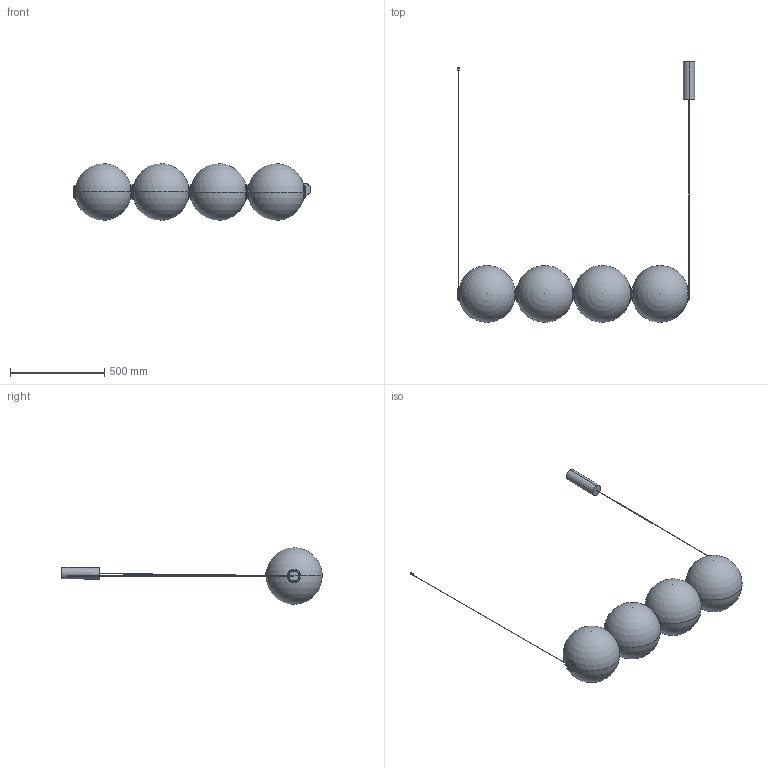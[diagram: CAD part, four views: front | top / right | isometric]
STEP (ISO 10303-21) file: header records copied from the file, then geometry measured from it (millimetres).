
FILE_DESCRIPTION (( 'STEP AP214' ), '1' );
FILE_NAME ('LUDO_C1368_4.STEP', '2026-08-27T11:18:22', ( '' ), ( '' ), 'SwSTEP 2.0', 'SolidWorks 2023', '' );
FILE_SCHEMA (( 'AUTOMOTIVE_DESIGN' ));
Length unit declared in the file: millimetre
Products named in the file (5): bola ulon; tubo ison; floron colgante 4; union; LUDO_C1368_4
Assembly tree (9 placements, depth 2):
  LUDO_C1368_4
    tubo ison
    bola ulon  x4
    union  x3
    floron colgante 4
Bounding box: 1258.09 x 1379.42 x 300 mm (x, y, z)
Volume: 60611103 mm3; surface area: 1581200.6 mm2
Topology: 20 solids, 20 shells, 300 faces, 778 edges, 510 vertices
Faces by surface type: cylinder 151, plane 79, sphere 32, bspline 18, torus 12, cone 8
Entity records: 7728 total; most frequent: CARTESIAN_POINT 3088, DIRECTION 965, ORIENTED_EDGE 908, EDGE_CURVE 454, AXIS2_PLACEMENT_3D 373, VERTEX_POINT 300, LINE 219, VECTOR 219
